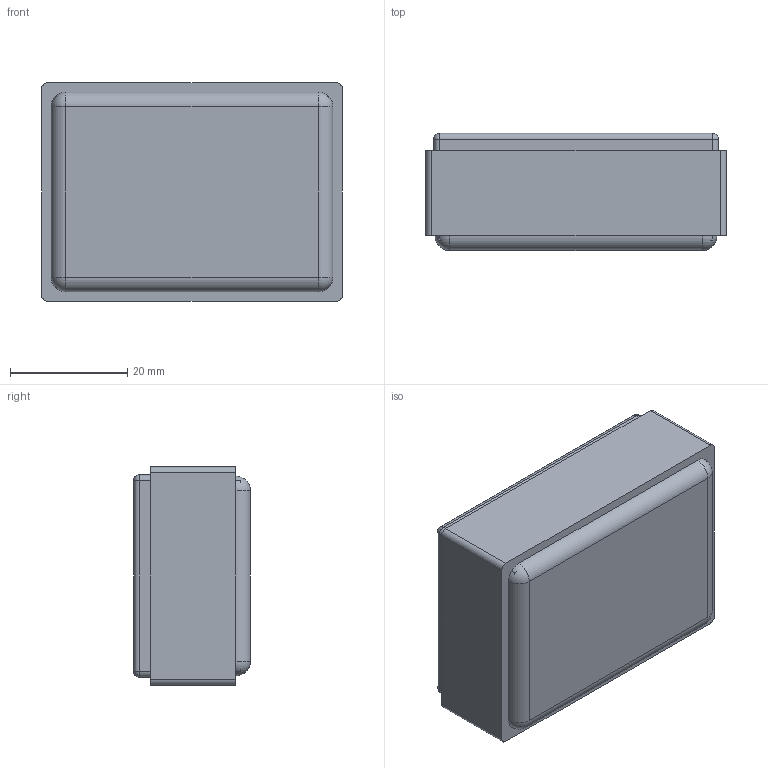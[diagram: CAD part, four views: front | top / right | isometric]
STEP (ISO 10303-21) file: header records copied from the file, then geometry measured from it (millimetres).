
FILE_DESCRIPTION (( 'STEP AP214' ), '1' );
FILE_NAME ('Conjunt PP40.STEP', '2016-09-08T14:53:05', ( 'aaa' ), ( '' ), 'SwSTEP 2.0', 'SolidWorks 2013', '' );
FILE_SCHEMA (( 'AUTOMOTIVE_DESIGN' ));
Length unit declared in the file: millimetre
Products named in the file (4): Cargol 2,1x6,5 PP40; Conjunt PP40; Cuerpo PP40; Tapa PP40
Assembly tree (3 placements, depth 2):
  Conjunt PP40
    Cuerpo PP40
    Tapa PP40
    Cargol 2,1x6,5 PP40
Bounding box: 51.2 x 19.9 x 37.15 mm (x, y, z)
Volume: 11688.1 mm3; surface area: 14641.4 mm2
Topology: 3 solids, 3 shells, 146 faces, 338 edges, 201 vertices
Faces by surface type: plane 66, cone 38, cylinder 34, sphere 8
Entity records: 4178 total; most frequent: DIRECTION 748, CARTESIAN_POINT 681, ORIENTED_EDGE 656, EDGE_CURVE 328, AXIS2_PLACEMENT_3D 268, LINE 212, VECTOR 212, VERTEX_POINT 201
